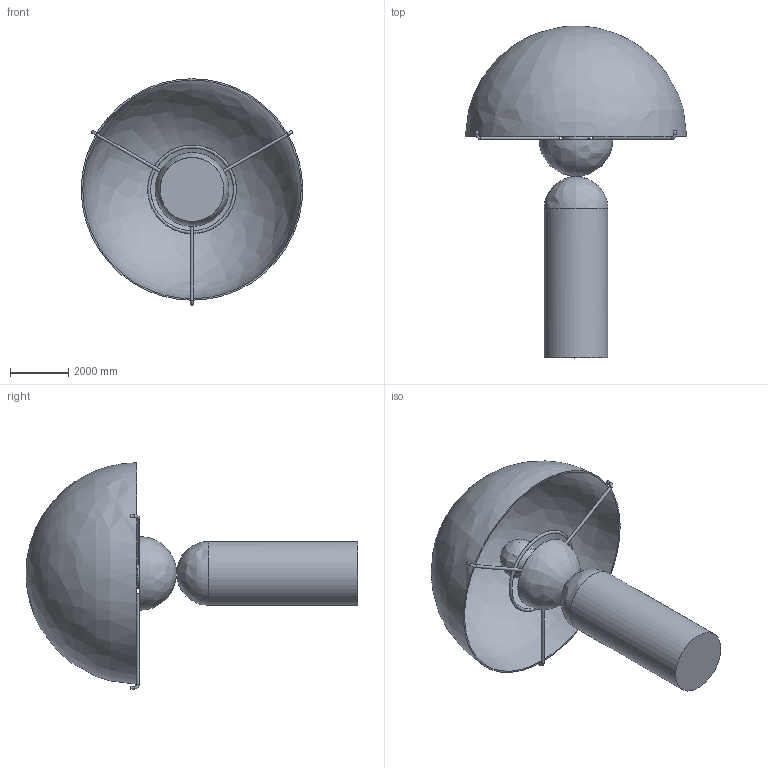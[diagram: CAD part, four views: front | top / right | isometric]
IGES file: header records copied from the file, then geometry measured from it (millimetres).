
Global section: file name: Peono Table Lamp; native system: AutoCAD 2022 - 简体中文 (Simplified Chinese),62HAuto; preprocessor: desk Translation Framework DWG producer (atf_dwg_producer); organization: unknown; date: 20250723.153307; units: inch
Bounding box: 7624.38 x 11429.07 x 7797.14 mm (x, y, z)
Volume: 29351748591.2 mm3; surface area: 283077534.6 mm2
Topology: 13 solids, 13 shells, 56 faces, 112 edges, 78 vertices
Faces by surface type: bspline 56
